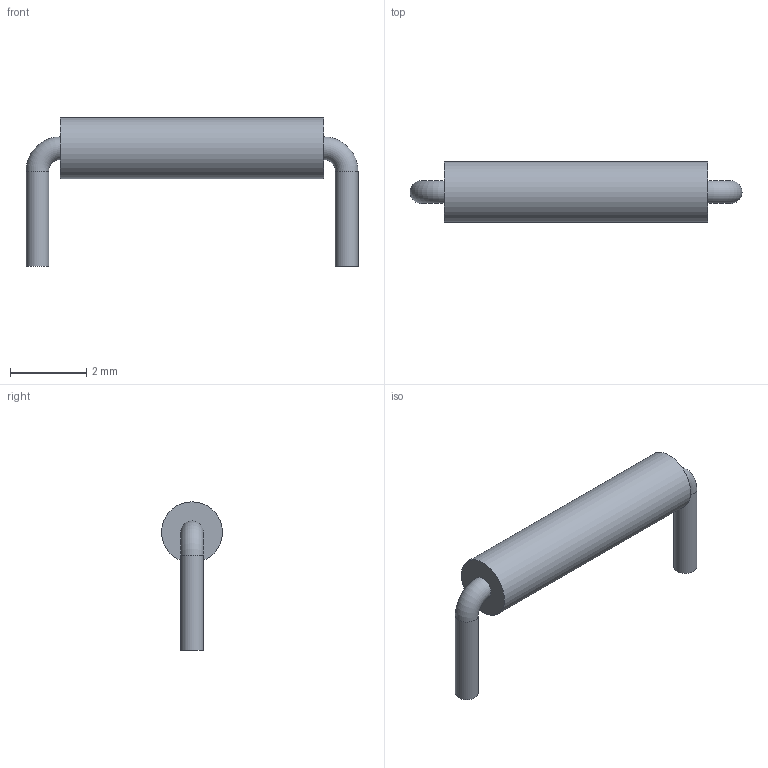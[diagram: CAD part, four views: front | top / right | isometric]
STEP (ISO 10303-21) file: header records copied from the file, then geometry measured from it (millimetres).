
FILE_DESCRIPTION(('FreeCAD Model'),'2;1');
FILE_NAME('Open CASCADE Shape Model','2022-04-09T07:10:55',('Author'),( ''),'Open CASCADE STEP processor 7.5','FreeCAD','Unknown');
FILE_SCHEMA(('AUTOMOTIVE_DESIGN { 1 0 10303 214 1 1 1 1 }'));
Length unit declared in the file: millimetre
Products named in the file (3): Wirebridge; Wire; Isolation
Assembly tree (2 placements, depth 2):
  Wirebridge
    Wire
    Isolation
Bounding box: 8.73 x 1.6 x 3.9 mm (x, y, z)
Volume: 17.8 mm3; surface area: 65.5 mm2
Topology: 2 solids, 2 shells, 10 faces, 14 edges, 8 vertices
Faces by surface type: plane 4, cylinder 4, torus 2
Full cylindrical faces by diameter (mm): 0.6 x3, 1.6 x1
Entity records: 283 total; most frequent: DIRECTION 50, CARTESIAN_POINT 35, ORIENTED_EDGE 28, AXIS2_PLACEMENT_3D 23, EDGE_CURVE 14, ADVANCED_FACE 10, FACE_BOUND 10, EDGE_LOOP 10
